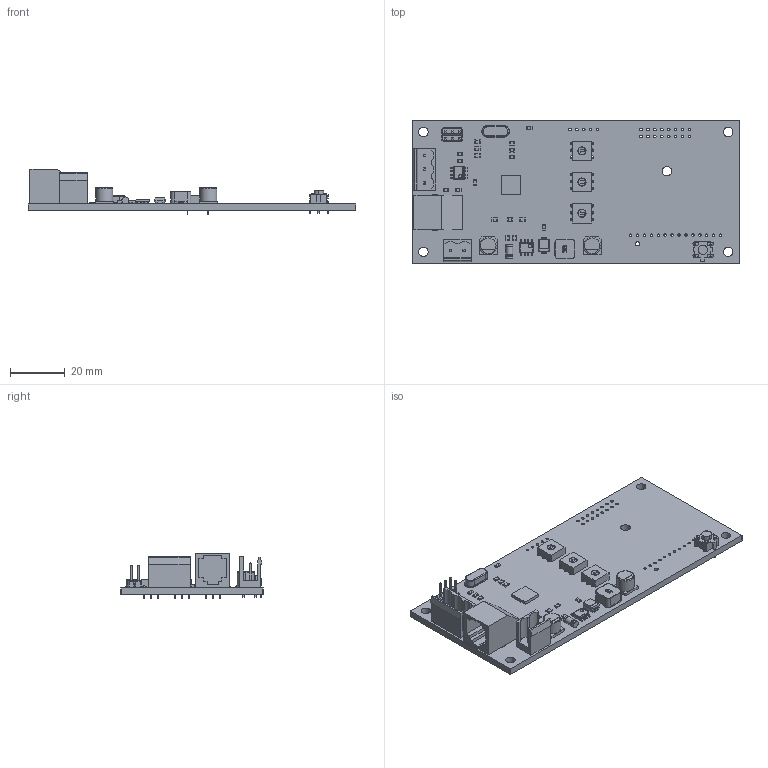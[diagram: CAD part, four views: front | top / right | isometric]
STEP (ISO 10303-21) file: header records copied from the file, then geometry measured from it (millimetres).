
FILE_DESCRIPTION(('Open CASCADE Model'),'2;1');
FILE_NAME('Open CASCADE Shape Model','2016-10-28T19:13:58',('Author'),( 'Open CASCADE'),'Open CASCADE STEP processor 6.5','Open CASCADE 6.5' ,'Unknown');
FILE_SCHEMA(('AUTOMOTIVE_DESIGN { 1 0 10303 214 1 1 1 1 }'));
Length unit declared in the file: millimetre
Products named in the file (64): PCB; BoardATMega_RF_B; SW1ATMega_RF_B; DIP_BCD; SW2ATMega_RF_B; U1ATMega_RF_B; 720035344; Extruded; X1ATMega_RF_B; XtalV_LP; U2ATMega_RF_B; m08a; M08A_ASM_82_ASM; BODY_M08A_35; LEAD_M08A_57; TIEBAR_M08A_2_ASM; MANIFOLD_SOLID_BREP_2784; MANIFOLD_SOLID_BREP_2935; MANIFOLD_SOLID_BREP_3086; MANIFOLD_SOLID_BREP_3237; R10ATMega_RF_B; 0805-DEFAULT; R7ATMega_RF_B; R6ATMega_RF_B; R5ATMega_RF_B; R4ATMega_RF_B; R3ATMega_RF_B; R2ATMega_RF_B; R1ATMega_RF_B; PZ1ATMega_RF_B; PG1ATMega_RF_B; RJ11-6; M1ATMega_RF_B; M2; JP3ATMega_RF_B; 6PIN; C10ATMega_RF_B; C9ATMega_RF_B; RADIAL-SMD-6.3mm; C8ATMega_RF_B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
Assembly tree (91 placements, depth 6):
  PCB
    BoardATMega_RF_B
    SW1ATMega_RF_B
      DIP_BCD
    SW2ATMega_RF_B
      DIP_BCD
    U1ATMega_RF_B
      720035344
        Extruded
    X1ATMega_RF_B
      XtalV_LP
    U2ATMega_RF_B
      m08a
        M08A_ASM_82_ASM
          BODY_M08A_35
          LEAD_M08A_57  x8
          TIEBAR_M08A_2_ASM
            MANIFOLD_SOLID_BREP_2784
            MANIFOLD_SOLID_BREP_2935
            MANIFOLD_SOLID_BREP_3086
            MANIFOLD_SOLID_BREP_3237
    R10ATMega_RF_B
      0805-DEFAULT
    R7ATMega_RF_B
      0805-DEFAULT
    R6ATMega_RF_B
      0805-DEFAULT
    R5ATMega_RF_B
      0805-DEFAULT
    R4ATMega_RF_B
      0805-DEFAULT
    R3ATMega_RF_B
      0805-DEFAULT
    R2ATMega_RF_B
      0805-DEFAULT
    R1ATMega_RF_B
      0805-DEFAULT
    PZ1ATMega_RF_B
      0805-DEFAULT
    PG1ATMega_RF_B
      RJ11-6
    M1ATMega_RF_B
      M2
    JP3ATMega_RF_B
      6PIN
    C10ATMega_RF_B
      0805-DEFAULT
    C9ATMega_RF_B
      RADIAL-SMD-6.3mm
    C8ATMega_RF_B
      RADIAL-SMD-6.3mm
    C7ATMega_RF_B
      0805-DEFAULT
    C6ATMega_RF_B
      0805-DEFAULT
    C4ATMega_RF_B
      0805-DEFAULT
    C3ATMega_RF_B
      0805-DEFAULT
    C2ATMega_RF_B
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Bounding box: 120.14 x 52.16 x 16.7 mm (x, y, z)
Volume: 20061.9 mm3; surface area: 19898.6 mm2
Topology: 63 solids, 63 shells, 1568 faces, 3882 edges, 2516 vertices
Faces by surface type: plane 1199, cylinder 322, sphere 20, torus 14, extrusion 13
Full cylindrical faces by diameter (mm): 0.9 x31, 1 x16, 1.016 x18, 1.2 x4, 1.5 x6, 3.25 x2, 3.5 x5, 5 x1
Entity records: 62161 total; most frequent: CARTESIAN_POINT 15122, DIRECTION 7428, VECTOR 4694, LINE 4681, ORIENTED_EDGE 4166, PCURVE 4166, DEFINITIONAL_REPRESENTATION 4166, EDGE_CURVE 2083
